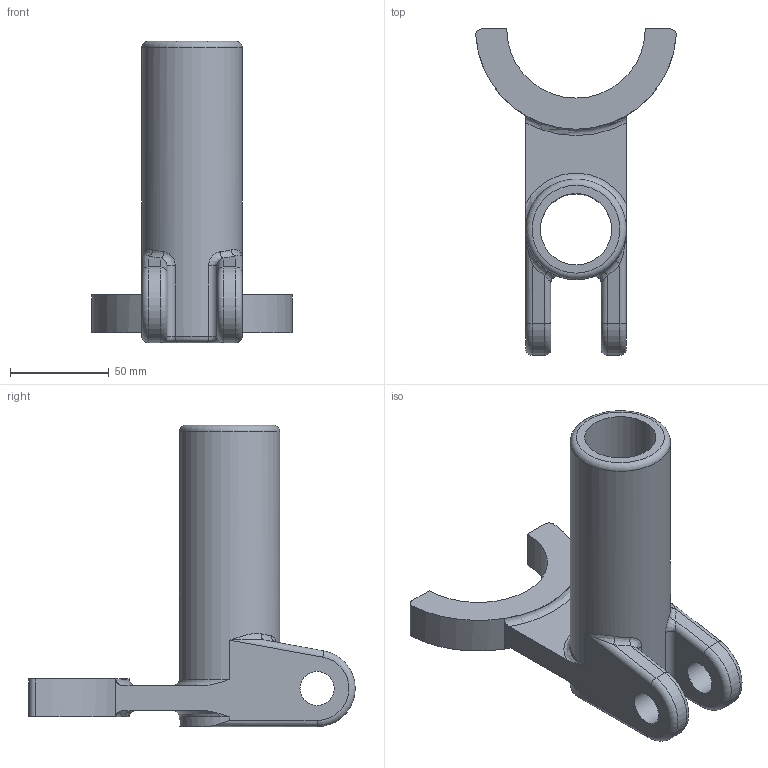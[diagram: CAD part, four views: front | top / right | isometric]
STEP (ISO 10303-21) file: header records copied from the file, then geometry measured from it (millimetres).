
FILE_DESCRIPTION(/* description */ ('Alibre Inc.'),/* implementation_level */ '2;1');
FILE_NAME(/* name */ 'Exercise 10',/* time_stamp */ '2003-12-09T12:30:32-06:00',/* author */ (''),/* organization */ (''),/* preprocessor_version */ 'ST-DEVELOPER v9',/* originating_system */ 'Alibre',/* authorisation */ '');
FILE_SCHEMA (('ALIBRE_SCHEMA','CONFIG_CONTROL_DESIGN'));
Length unit declared in the file: centimetre
Products named in the file (1): ID_1
Bounding box: 101.37 x 165.1 x 152.4 mm (x, y, z)
Volume: 253585.9 mm3; surface area: 64108.1 mm2
Topology: 1 solids, 1 shells, 53 faces, 135 edges, 82 vertices
Faces by surface type: cylinder 21, plane 14, torus 12, bspline 6
Full cylindrical faces by diameter (mm): 17.272 x2, 36.068 x1, 50.8 x1
Entity records: 3716 total; most frequent: CARTESIAN_POINT 1155, DIRECTION 285, ORIENTED_EDGE 252, PERSISTANTTOPOLOGYATTRIBUTE 151, REFERENCEDEPENDENTUV 149, CONSTRAINTPAIRUV 136, EDGE_CURVE 126, AXIS2_PLACEMENT_3D 115
